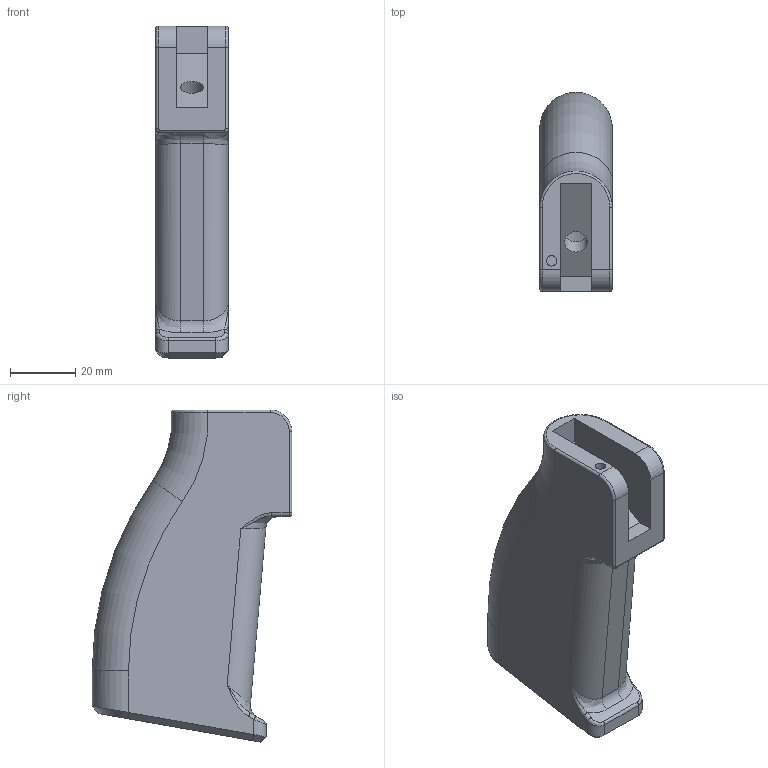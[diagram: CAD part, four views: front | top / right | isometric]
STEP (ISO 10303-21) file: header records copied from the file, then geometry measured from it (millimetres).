
FILE_DESCRIPTION(/* description */ (''),/* implementation_level */ '2;1');
FILE_NAME(/* name */ 'C:/Users/jeremy/OneDrive/Desktop/SG22 Pistol Grip Release.step',/* time_stamp */ '2021-03-18T08:57:11-06:00',/* author */ (''),/* organization */ (''),/* preprocessor_version */ 'ST-DEVELOPER v18.1',/* originating_system */ 'Autodesk Translation Framework v9.10.0.1330',/* authorisation */ '');
FILE_SCHEMA (('AUTOMOTIVE_DESIGN { 1 0 10303 214 3 1 1 }'));
Length unit declared in the file: millimetre
Products named in the file (1): Brace V2
Bounding box: 22.23 x 61.09 x 101.66 mm (x, y, z)
Volume: 53580.8 mm3; surface area: 21541.6 mm2
Topology: 1 solids, 1 shells, 69 faces, 168 edges, 99 vertices
Faces by surface type: cylinder 23, plane 21, bspline 20, torus 5
Full cylindrical faces by diameter (mm): 3.175 x1, 7.163 x1
Entity records: 3017 total; most frequent: CARTESIAN_POINT 1422, ORIENTED_EDGE 328, DIRECTION 306, EDGE_CURVE 164, AXIS2_PLACEMENT_3D 112, VERTEX_POINT 99, LINE 82, VECTOR 82
